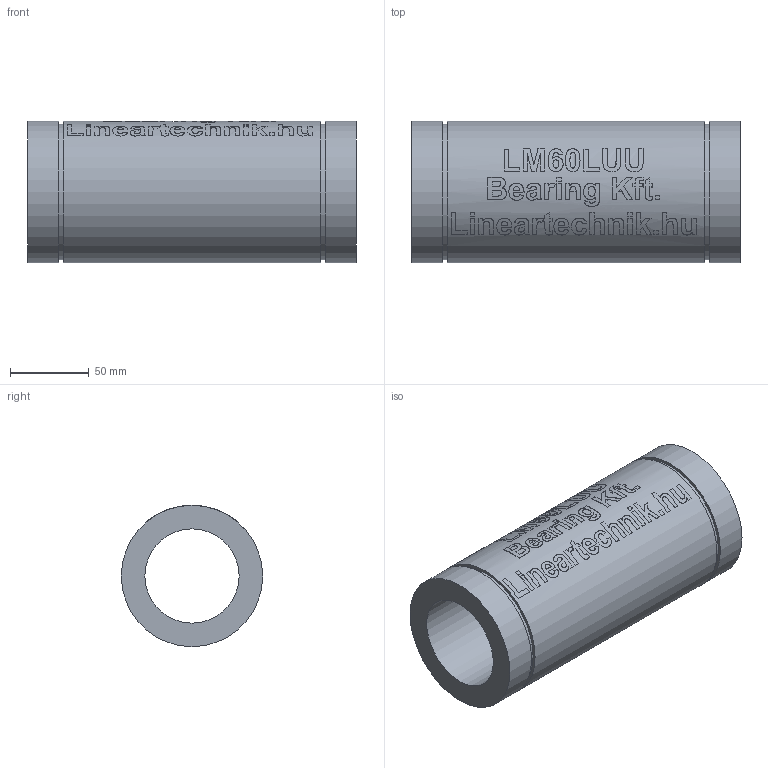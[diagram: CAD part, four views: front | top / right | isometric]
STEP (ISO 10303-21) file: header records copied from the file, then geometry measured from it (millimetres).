
FILE_DESCRIPTION(/* description */ (''),/* implementation_level */ '2;1');
FILE_NAME(/* name */ 'LM60LUU',/* time_stamp */ '2019-05-16T09:39:15+02:00',/* author */ ('VĂ©gh MĂˇtĂ©'),/* organization */ ('Bearing Kft'),/* preprocessor_version */ 'ST-DEVELOPER v16.7',/* originating_system */ 'DEX',/* authorisation */ $);
FILE_SCHEMA (('AUTOMOTIVE_DESIGN {1 0 10303 214 3 1 1}'));
Length unit declared in the file: millimetre
Products named in the file (1): LM60LUU
Bounding box: 209 x 90 x 90 mm (x, y, z)
Volume: 735372.5 mm3; surface area: 107619.6 mm2
Topology: 1 solids, 1 shells, 306 faces, 791 edges, 528 vertices
Faces by surface type: plane 157, bspline 94, cylinder 55
Full cylindrical faces by diameter (mm): 60 x1, 86.5 x2, 90 x3
Entity records: 30035 total; most frequent: CARTESIAN_POINT 23310, ORIENTED_EDGE 1486, DIRECTION 1114, EDGE_CURVE 743, VERTEX_POINT 502, LINE 408, VECTOR 408, EDGE_LOOP 367
